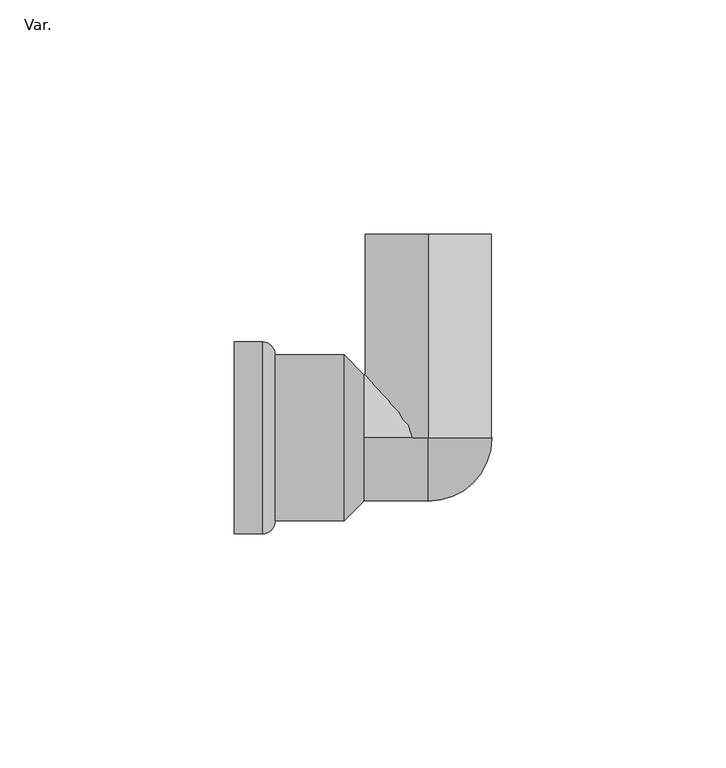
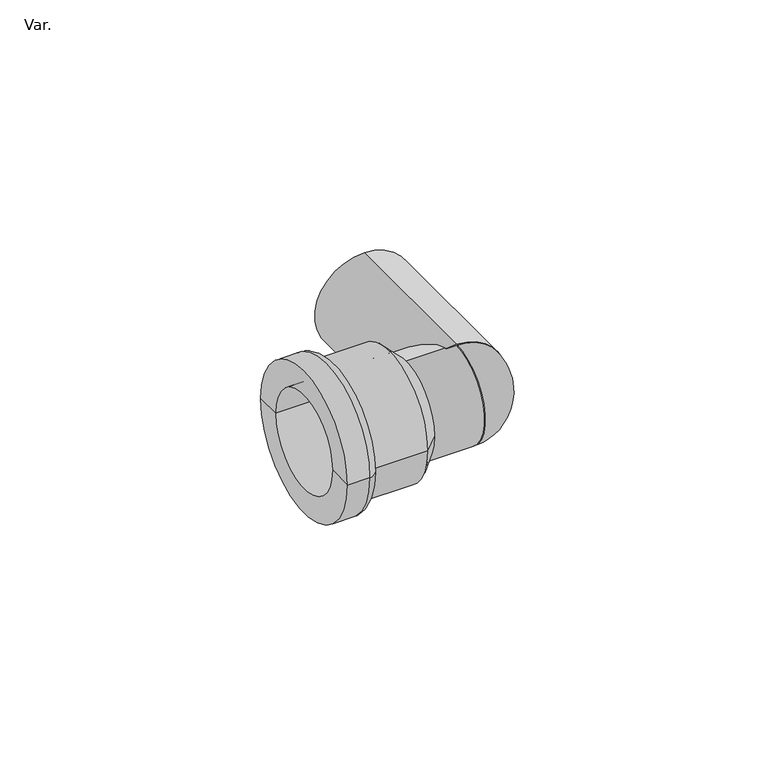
"""IFC4 building model written with IfcOpenShell, lengths in millimetres: pipe fitting geometry."""

from ifc_helpers import new_model, si_unit, point, frame, origin, origin_2d, place, context, project, spatial, polyline, circle_curve, ellipse_curve, trimmed, segment, composite_curve, outline, extrude, source, transform, mapped, element, save
from ifc_brep_helpers import plane_surface, cylinder_surface, revolved_surface, advanced_brep


def var_c5e0cd6b(model_context):
    return source(origin(), model_context, "Body", "SolidModel", [
        advanced_brep(
        [(-41.5, -20.5, 0.0), (-41.5, 20.5, 0.0), (-35.5, 20.5, 0.0), (-35.5, -20.5, 0.0), (-41.5, -13.525, 0.0), (-41.5, 13.525, 0.0), (-18.0, -13.525, 0.0), (-18.0, 13.525, 0.0), (-13.775, -13.525, 0.0), (-13.775, 13.525, 0.0), (-18.0, -17.75, 0.0), (-18.0, 17.75, 0.0), (-32.75, -17.75, 0.0), (-32.75, 17.75, 0.0)],
        [
            (0, 1, circle_curve(frame((-41.5, 0.0, 0.0), z_axis=(1.0, 0.0, 0.0), x_axis=(0.0, 1.0, 0.0)), 20.5)),
            (1, 2),
            (2, 3, circle_curve(frame((-35.5, 0.0, 0.0), z_axis=(-1.0, 0.0, 0.0), x_axis=(0.0, 1.0, 0.0)), 20.5)),
            (3, 0),
            (1, 0, circle_curve(frame((-41.5, 0.0, 0.0), z_axis=(1.0, 0.0, 0.0), x_axis=(0.0, 1.0, 0.0)), 20.5)),
            (3, 2, circle_curve(frame((-35.5, 0.0, 0.0), z_axis=(-1.0, 0.0, 0.0), x_axis=(0.0, 1.0, 0.0)), 20.5)),
            (4, 5, circle_curve(frame((-41.5, 0.0, 0.0), z_axis=(1.0, 0.0, 0.0), x_axis=(0.0, 1.0, 0.0)), 13.525)),
            (5, 1),
            (0, 4),
            (5, 4, circle_curve(frame((-41.5, 0.0, 0.0), z_axis=(1.0, 0.0, 0.0), x_axis=(0.0, 1.0, 0.0)), 13.525)),
            (6, 7, circle_curve(frame((-18.0, 0.0, 0.0), z_axis=(1.0, 0.0, 0.0), x_axis=(0.0, 1.0, 0.0)), 13.525)),
            (7, 5),
            (4, 6),
            (7, 6, circle_curve(frame((-18.0, 0.0, 0.0), z_axis=(1.0, 0.0, 0.0), x_axis=(0.0, 1.0, 0.0)), 13.525)),
            (8, 9, circle_curve(frame((-13.775, 0.0, 0.0), z_axis=(1.0, 0.0, 0.0), x_axis=(0.0, 1.0, 0.0)), 13.525)),
            (9, 7),
            (6, 8),
            (9, 8, circle_curve(frame((-13.775, 0.0, 0.0), z_axis=(1.0, 0.0, 0.0), x_axis=(0.0, 1.0, 0.0)), 13.525)),
            (10, 11, circle_curve(frame((-18.0, 0.0, 0.0), z_axis=(1.0, 0.0, 0.0), x_axis=(0.0, 1.0, 0.0)), 17.75)),
            (11, 9),
            (8, 10),
            (11, 10, circle_curve(frame((-18.0, 0.0, 0.0), z_axis=(1.0, 0.0, 0.0), x_axis=(0.0, 1.0, 0.0)), 17.75)),
            (12, 13, circle_curve(frame((-32.75, 0.0, 0.0), z_axis=(1.0, 0.0, 0.0), x_axis=(0.0, 1.0, 0.0)), 17.75)),
            (13, 11),
            (10, 12),
            (13, 12, circle_curve(frame((-32.75, 0.0, 0.0), z_axis=(1.0, 0.0, 0.0), x_axis=(0.0, 1.0, 0.0)), 17.75)),
            (2, 13, circle_curve(frame((-35.5, 17.75, 0.0), z_axis=(0.0, 0.0, -1.0), x_axis=(1.0, 0.0, 0.0)), 2.75)),
            (12, 3, circle_curve(frame((-35.5, -17.75, 0.0), z_axis=(0.0, 0.0, -1.0), x_axis=(1.0, 0.0, 0.0)), 2.75)),
        ],
        [
            cylinder_surface(frame((1977.725, 0.0, 0.0), z_axis=(-1.0, 0.0, 0.0), x_axis=(0.0, 1.0, 0.0)), 20.5),
            plane_surface(frame((-41.5, 0.0, 0.0), z_axis=(-1.0, 0.0, 0.0), x_axis=(0.0, 1.0, 0.0))),
            revolved_surface(polyline([(-41.5, 13.525, 0.0), (-18.0, 13.525, 0.0)]), (1977.725, 0.0, 0.0), (-1.0, 0.0, 0.0)),
            revolved_surface(polyline([(-18.0, 13.525, 0.0), (-13.775000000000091, 13.525, 0.0)]), (1977.725, 0.0, 0.0), (-1.0, 0.0, 0.0)),
            revolved_surface(polyline([(-13.775, 13.525, 0.0), (-18.0, 17.75, 0.0)]), (1977.725, 0.0, 0.0), (-1.0, 0.0, 0.0)),
            cylinder_surface(frame((1977.725, 0.0, 0.0), z_axis=(-1.0, 0.0, 0.0), x_axis=(0.0, 1.0, 0.0)), 17.75),
            revolved_surface(trimmed(ellipse_curve(frame((-35.5, 17.75, 0.0), z_axis=(0.0, 0.0, 1.0), x_axis=(1.0, 0.0, 0.0)), 2.75, 2.75), [point((-32.75, 17.75, 0.0))], [point((-35.5, 20.5, 0.0))], True, "CARTESIAN"), (1977.725, 0.0, 0.0), (-1.0, 0.0, 0.0)),
        ],
        [
            (0, [[1, 2, 3, 4]]),
            (0, [[5, -4, 6, -2]]),
            (1, [[7, 8, -1, 9]]),
            (1, [[10, -9, -5, -8]]),
            (2, [[11, 12, -7, 13]]),
            (2, [[14, -13, -10, -12]]),
            (3, [[15, 16, -11, 17]]),
            (3, [[18, -17, -14, -16]]),
            (4, [[19, 20, -15, 21]]),
            (4, [[22, -21, -18, -20]]),
            (5, [[23, 24, -19, 25]]),
            (5, [[26, -25, -22, -24]]),
            (6, [[-3, 27, -23, 28]]),
            (6, [[-6, -28, -26, -27]]),
        ],
    ),
        extrude(outline(composite_curve([segment(trimmed(circle_curve(origin_2d(), 13.525), [point((-13.525, 0.0))], [point((13.525, 0.0))], False, "CARTESIAN"), True, "CONTINUOUS"), segment(trimmed(circle_curve(origin_2d(), 13.525), [point((13.525, 0.0))], [point((-13.525, 0.0))], False, "CARTESIAN"), True, "CONTINUOUS")], self_intersect=False)), frame((0.0, 0.0, 0.0), z_axis=(0.0, 1.0, 0.0), x_axis=(0.0, 0.0, 1.0)), (0.0, 0.0, 1.0), 43.5),
        advanced_brep(
        [(0.0, 0.0, -13.525), (0.0, 0.0, 13.525)],
        [
            (0, 1, circle_curve(frame((0.0, 0.0, 0.0), z_axis=(-1.0, 0.0, 0.0), x_axis=(0.0, 0.0, 1.0)), 13.525)),
            (1, 0),
            (1, 0, circle_curve(frame((0.0, 0.0, 0.0), z_axis=(0.0, 1.0, 0.0), x_axis=(0.0, 0.0, 1.0)), 13.525)),
        ],
        [
            plane_surface(frame((0.0, 0.0, -83.1582781), z_axis=(-1.0, 0.0, 0.0), x_axis=(0.0, -1.0, 0.0))),
            plane_surface(frame((0.0, 0.0, -83.1582781), z_axis=(0.0, 1.0, 0.0), x_axis=(1.0, 0.0, 0.0))),
            revolved_surface(trimmed(ellipse_curve(frame((0.0, 0.0, 0.0), z_axis=(-1.0, 0.0, 0.0), x_axis=(0.0, 0.0, 1.0)), 13.525, 13.525), [point((0.0, 0.0, -13.525))], [point((0.0, 0.0, 13.525))], True, "CARTESIAN"), (0.0, 0.0, -83.1582781), (0.0, 0.0, 1.0)),
        ],
        [
            (0, [[1, 2]]),
            (1, [[3, -2]]),
            (2, [[-1, -3]]),
        ],
    ),
        extrude(outline(composite_curve([segment(trimmed(circle_curve(origin_2d(), 13.525), [point((0.0, -13.525))], [point((0.0, 13.525))], False, "CARTESIAN"), True, "CONTINUOUS"), segment(trimmed(circle_curve(origin_2d(), 13.525), [point((0.0, 13.525))], [point((0.0, -13.525))], False, "CARTESIAN"), True, "CONTINUOUS")], self_intersect=False)), frame((-18.0, 0.0, 0.0), z_axis=(1.0, 0.0, 0.0), x_axis=(0.0, 1.0, 0.0)), (0.0, 0.0, 1.0), 18.0),
    ])


if __name__ == "__main__":
    model = new_model("IFC4")
    model_context = context("Model", 3, world=origin())
    ifc_project = project(units=[si_unit("LENGTHUNIT", "METRE", prefix="MILLI")], contexts=[model_context])
    site = spatial("IfcSite", under=ifc_project)
    building = spatial("IfcBuilding", under=site)
    placement = place(None, origin())
    var_shape = var_c5e0cd6b(model_context)
    element("IfcPipeFitting", 1, ObjectType="PlastigamaWavin_Unionesdetubería_LineaDoradaCodoCachimba1/2\"-3/4\" : Var.", at=placement, inside=building, context=model_context, shape_type="MappedRepresentation", body=[
        mapped(var_shape, transform((0.0, 0.0, 0.0), x_axis=(1.0, 0.0, 0.0), y_axis=(0.0, 1.0, 0.0), z_axis=(0.0, 0.0, 1.0))),
    ])
    save(model, "model.ifc")
